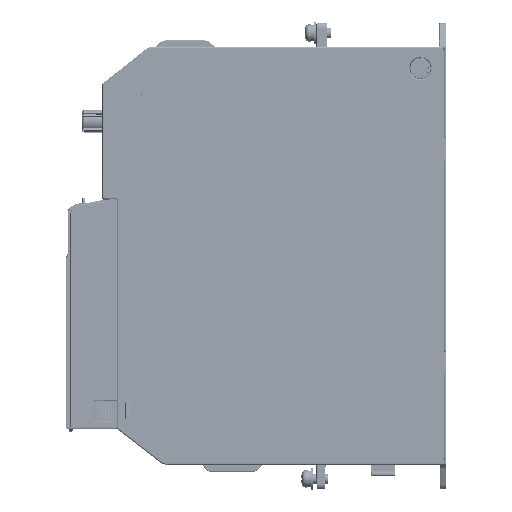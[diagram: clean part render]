
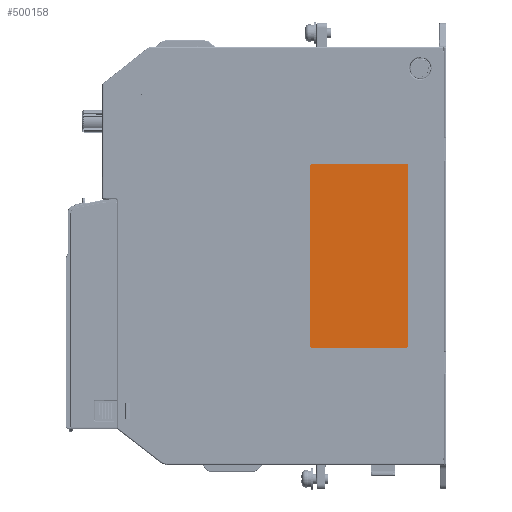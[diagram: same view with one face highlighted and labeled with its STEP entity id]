
A CAD part, top view. The second image highlights one B-rep face of the part: STEP entity #500158.
In plain terms, the highlighted planar face has unit normal (0, 0, -1).
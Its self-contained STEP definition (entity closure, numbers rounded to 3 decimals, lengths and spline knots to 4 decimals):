
#384214=CARTESIAN_POINT('',(4.2648,5.1773,
-0.0202));
#384215=DIRECTION('',(0.,0.,1.));
#384216=DIRECTION('',(1.,0.,0.));
#384217=AXIS2_PLACEMENT_3D('',#384214,#384215,#384216);
#384219=CARTESIAN_POINT('',(2.7687,5.1773,
-0.0202));
#384220=DIRECTION('',(0.,0.,1.));
#384221=DIRECTION('',(0.,1.,0.));
#384222=AXIS2_PLACEMENT_3D('',#384219,#384220,#384221);
#384224=CARTESIAN_POINT('',(2.7687,2.3033,
-0.0202));
#384225=DIRECTION('',(0.,0.,1.));
#384226=DIRECTION('',(-1.,0.,0.));
#384227=AXIS2_PLACEMENT_3D('',#384224,#384225,#384226);
#384229=DIRECTION('',(1.,0.,0.));
#384230=VECTOR('',#384229,1.4961);
#384231=CARTESIAN_POINT('',(2.7687,2.2639,
-0.0202));
#384232=LINE('',#384231,#384230);
#384233=CARTESIAN_POINT('',(4.2648,2.3033,
-0.0202));
#384234=DIRECTION('',(0.,0.,1.));
#384235=DIRECTION('',(0.,-1.,0.));
#384236=AXIS2_PLACEMENT_3D('',#384233,#384234,#384235);
#384246=DIRECTION('',(0.,1.,0.));
#384247=VECTOR('',#384246,2.874);
#384248=CARTESIAN_POINT('',(4.3042,2.3033,
-0.0202));
#384249=LINE('',#384248,#384247);
#384258=DIRECTION('',(-1.,0.,0.));
#384259=VECTOR('',#384258,1.4961);
#384260=CARTESIAN_POINT('',(4.2648,5.2166,
-0.0202));
#384261=LINE('',#384260,#384259);
#384270=DIRECTION('',(0.,1.,0.));
#384271=VECTOR('',#384270,2.874);
#384272=CARTESIAN_POINT('',(2.7294,2.3033,
-0.0202));
#384273=LINE('',#384272,#384271);
#407575=CARTESIAN_POINT('',(4.2648,2.2639,
-0.0202));
#407576=VERTEX_POINT('',#407575);
#407577=CARTESIAN_POINT('',(2.7687,2.2639,
-0.0202));
#407578=VERTEX_POINT('',#407577);
#407579=CARTESIAN_POINT('',(4.3042,2.3033,
-0.0202));
#407580=VERTEX_POINT('',#407579);
#407581=CARTESIAN_POINT('',(4.3042,5.1773,
-0.0202));
#407582=CARTESIAN_POINT('',(4.2648,5.2166,
-0.0202));
#407583=VERTEX_POINT('',#407581);
#407584=VERTEX_POINT('',#407582);
#407585=CARTESIAN_POINT('',(2.7294,2.3033,
-0.0202));
#407586=VERTEX_POINT('',#407585);
#407587=CARTESIAN_POINT('',(2.7294,5.1773,
-0.0202));
#407588=VERTEX_POINT('',#407587);
#407589=CARTESIAN_POINT('',(2.7687,5.2166,
-0.0202));
#407590=VERTEX_POINT('',#407589);
#500137=CARTESIAN_POINT('',(3.5168,3.7403,
-0.0202));
#500138=DIRECTION('',(0.,0.,1.));
#500139=DIRECTION('',(0.,1.,0.));
#500140=AXIS2_PLACEMENT_3D('',#500137,#500138,#500139);
#500141=PLANE('',#500140);
#500143=ORIENTED_EDGE('',*,*,#500142,.T.);
#500145=ORIENTED_EDGE('',*,*,#500144,.T.);
#500147=ORIENTED_EDGE('',*,*,#500146,.T.);
#500149=ORIENTED_EDGE('',*,*,#500148,.F.);
#500151=ORIENTED_EDGE('',*,*,#500150,.T.);
#500152=ORIENTED_EDGE('',*,*,#500115,.T.);
#500153=ORIENTED_EDGE('',*,*,#500128,.T.);
#500155=ORIENTED_EDGE('',*,*,#500154,.T.);
#500156=EDGE_LOOP('',(#500143,#500145,#500147,#500149,#500151,#500152,#500153,
#500155));
#500157=FACE_OUTER_BOUND('',#500156,.F.);
#500158=ADVANCED_FACE('',(#500157),#500141,.F.);
#384218=CIRCLE('',#384217,0.0394);
#384223=CIRCLE('',#384222,0.0394);
#384228=CIRCLE('',#384227,0.0394);
#384237=CIRCLE('',#384236,0.0394);
#500115=EDGE_CURVE('',#407578,#407576,#384232,.T.);
#500128=EDGE_CURVE('',#407576,#407580,#384237,.T.);
#500142=EDGE_CURVE('',#407583,#407584,#384218,.T.);
#500144=EDGE_CURVE('',#407584,#407590,#384261,.T.);
#500146=EDGE_CURVE('',#407590,#407588,#384223,.T.);
#500148=EDGE_CURVE('',#407586,#407588,#384273,.T.);
#500150=EDGE_CURVE('',#407586,#407578,#384228,.T.);
#500154=EDGE_CURVE('',#407580,#407583,#384249,.T.);
